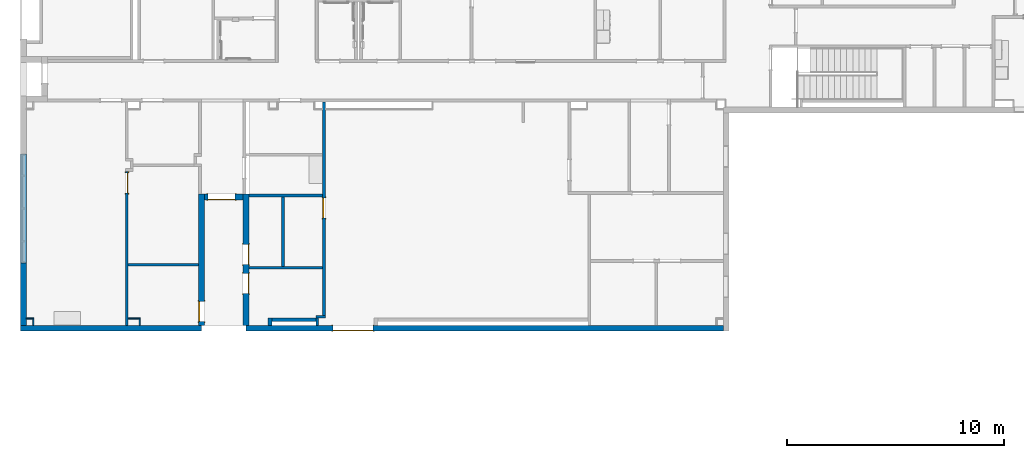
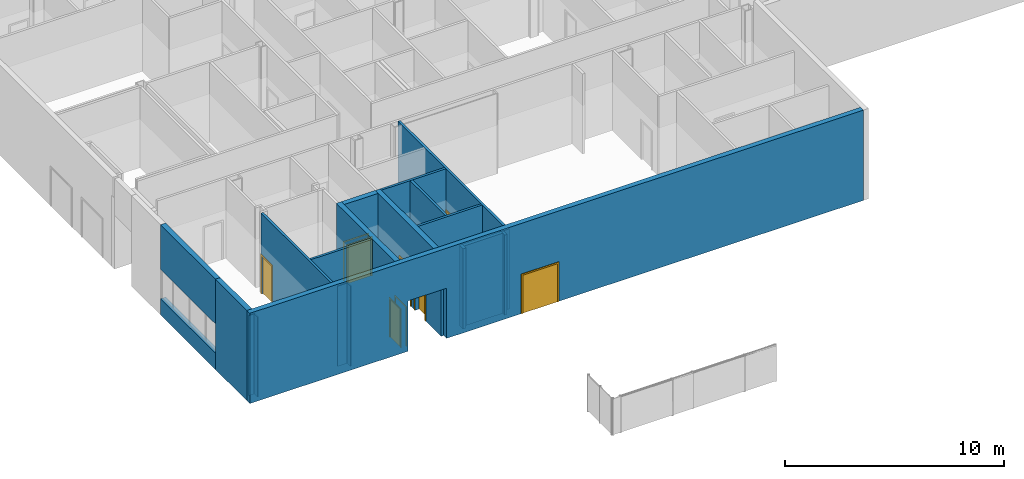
# One storey, part 18 of 87: 21 walls, 7 doors, 8 openings.
"""IFC2X3 building model written with IfcOpenShell, lengths in metres."""

from ifc_helpers import new_model, entity, si_unit, converted_unit, frame, frame_2d, origin, origin_2d_with_axis, place, context, project, spatial, polyline, rectangle, outline, extrude, source, transform, mapped, material, layer, layer_set, layer_usage, type_object, type_shapes, element, fill, save


model = new_model("IFC2X3")

# Units and contexts
model_context = context("Model", 3, precision=1e-09, world=origin())
plan_context = context("Plan", 3, precision=1e-09, world=origin())
ifc_project = project(units=[si_unit("LENGTHUNIT", "METRE"), si_unit("AREAUNIT", "SQUARE_METRE"), si_unit("VOLUMEUNIT", "CUBIC_METRE"), converted_unit("PLANEANGLEUNIT", "DEGREE", entity("IfcRatioMeasure", 0.01745329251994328), si_unit("PLANEANGLEUNIT", "RADIAN"), dimensions=[0, 0, 0, 0, 0, 0, 0]), si_unit("TIMEUNIT", "SECOND")], contexts=[model_context, plan_context])

# Site, building, storey
site_placement = place(None, origin())
site = spatial("IfcSite", under=ifc_project, at=site_placement, Name="Default", CompositionType="ELEMENT")
building_placement = place(site_placement, origin())
building = spatial("IfcBuilding", under=site, at=building_placement, CompositionType="ELEMENT")
storey_placement = place(building_placement, origin())
storey = spatial("IfcBuildingStorey", under=building, at=storey_placement, Name="First Floor", CompositionType="ELEMENT", Elevation=-3.531500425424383e-13)

# Wall, openings, door
ifc_material_1 = material(Name="Insulation - Insulated Panel")
ifc_layer_1 = layer(ifc_material_1, 0.042)
ifc_material_2 = material(Name="Metal - Firring")
ifc_layer_2 = layer(ifc_material_2, 0.038)
ifc_material_3 = material(Name="Wood - Sheathing - plywood")
ifc_layer_3 = layer(ifc_material_3, 0.019)
ifc_material_4 = material(Name="Metal - Stud Layer")
ifc_layer_4 = layer(ifc_material_4, 0.152)
ifc_material_5 = material(Name="Plasterboard")
ifc_layer_5 = layer(ifc_material_5, 0.016)
ifc_layer_set_1 = layer_set([ifc_layer_1, ifc_layer_2, ifc_layer_3, ifc_layer_4, ifc_layer_5], Name="Basic Wall:Exterior - Insul Panel on Mtl. Stud")
ifc_layer_usage_1 = layer_usage(ifc_layer_set_1, "AXIS2", "NEGATIVE", 0.1335)
wall_1_placement = place(storey_placement, frame((-19.9470000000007, -0.246500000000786, 0.0), z_axis=(0.0, 0.0, 1.0), x_axis=(-1.0, 0.0, 0.0)))
wall_1 = element("IfcWallStandardCase", 1, at=wall_1_placement, inside=storey, material=ifc_layer_usage_1, Name="Basic Wall:Exterior - Insul Panel on Mtl. Stud", ObjectType="Basic Wall:Exterior - Insul Panel on Mtl. Stud", context=model_context, shape_type="SweptSolid", body=[
    extrude(rectangle(XDim=32.333, YDim=0.267, at=frame_2d((16.1665, 0.0), x_axis=(-1.0, 0.0))), origin(), (0.0, 0.0, 1.0), 5.02700000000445),
])
opening_1_placement = place(wall_1_placement, frame((22.98149999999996, 0.1335, 1.400000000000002)))
element("IfcOpeningElement", 2, at=opening_1_placement, cuts=wall_1, Name="Basic Wall:Exterior - Insul Panel on Mtl. Stud:2", ObjectType="Opening", context=model_context, shape_type="SweptSolid", body=[
    extrude(rectangle(XDim=2.8, YDim=2.043999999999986, at=frame_2d((0.0, 0.0), x_axis=(0.0, 1.0))), frame((0.0, 0.0, 0.0), z_axis=(0.0, -1.0, 0.0), x_axis=(1.0, 0.0, 0.0)), (0.0, 0.0, 1.0), 0.267),
])
opening_2_placement = place(wall_1_placement, frame((16.12339999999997, -0.1335000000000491, 0.0)))
opening_2 = element("IfcOpeningElement", 3, at=opening_2_placement, cuts=wall_1, Name="M_Double-Flush:1830 x 2134mm Exterior:1830 x 2134mm Exterior:1", ObjectType="Opening", context=model_context, shape_type="SweptSolid", body=[
    extrude(rectangle(XDim=2.133999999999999, YDim=1.829999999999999, at=frame_2d((1.067, 0.9149999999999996), x_axis=(1.0, 0.0))), frame((0.0, 0.0, 0.0), z_axis=(0.0, 1.0, 0.0), x_axis=(0.0, 0.0, 1.0)), (0.0, 0.0, 1.0), 0.267),
])
door_style_1 = type_object("IfcDoorStyle", Name="1830 x 2134mm Exterior", ConstructionType="NOTDEFINED", OperationType="DOUBLE_DOOR_SINGLE_SWING", ParameterTakesPrecedence=False, Sizeable=False)
shared_shape_1 = source(origin(), model_context, "Body", "SweptSolid", [
    extrude(rectangle(XDim=0.051, YDim=0.9150000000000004, at=origin_2d_with_axis()), frame((1.3725, 0.2414999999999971, 0.0), z_axis=(0.0, 0.0, 1.0), x_axis=(0.0, -1.0, 0.0)), (0.0, 0.0, 1.0), 2.133999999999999),
    extrude(rectangle(XDim=0.05099999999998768, YDim=0.9149999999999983, at=origin_2d_with_axis()), frame((0.457500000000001, 0.2415000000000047, 0.0), z_axis=(0.0, 0.0, 1.0), x_axis=(0.0, -1.0, 0.0)), (0.0, 0.0, 1.0), 2.134),
    extrude(outline(polyline([(-1.048, 0.9149999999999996), (1.086, 0.9149999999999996), (1.086, 0.9909999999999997), (-1.124, 0.9909999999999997), (-1.124, -0.9909999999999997), (1.086, -0.9909999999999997), (1.086, -0.9149999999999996), (-1.048, -0.9149999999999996), (-1.048, 0.9149999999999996)])), frame((0.9149999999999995, -0.02499999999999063, 1.086), z_axis=(0.0, 1.0, 0.0), x_axis=(0.0, 0.0, -1.0)), (0.0, 0.0, 1.0), 0.02499999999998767),
    extrude(outline(polyline([(-1.048, 0.9149999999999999), (1.086, 0.9149999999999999), (1.086, 0.991), (-1.124, 0.991), (-1.124, -0.991), (1.086, -0.991), (1.086, -0.9149999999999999), (-1.048, -0.9149999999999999), (-1.048, 0.9149999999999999)])), frame((0.9150000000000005, 0.266999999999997, 1.086), z_axis=(0.0, 1.0, 0.0), x_axis=(0.0, 0.0, -1.0)), (0.0, 0.0, 1.0), 0.02500000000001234),
])
type_shapes(door_style_1, [shared_shape_1])
door_1_placement = place(opening_2_placement, origin())
door_1 = element("IfcDoor", 4, at=door_1_placement, inside=storey, type_object=door_style_1, Name="M_Double-Flush:1830 x 2134mm Exterior:1830 x 2134mm Exterior", ObjectType="1830 x 2134mm Exterior", OverallHeight=2.133999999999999, OverallWidth=1.83, context=model_context, shape_type="MappedRepresentation", body=[
    mapped(shared_shape_1, transform((0.0, 0.0, 0.0), scale=1.0)),
])
fill(opening_2, door_1)

# Wall
ifc_layer_usage_2 = layer_usage(ifc_layer_set_1, "AXIS2", "NEGATIVE", 0.1335)
wall_2_placement = place(storey_placement, frame((-52.1465000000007, -0.1130000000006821, 0.0), z_axis=(0.0, 0.0, 1.0), x_axis=(0.0, 1.0, 0.0)))
element("IfcWallStandardCase", 5, at=wall_2_placement, inside=storey, material=ifc_layer_usage_2, Name="Basic Wall:Exterior - Insul Panel on Mtl. Stud", ObjectType="Basic Wall:Exterior - Insul Panel on Mtl. Stud", context=model_context, shape_type="SweptSolid", body=[
    extrude(rectangle(XDim=2.872486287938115, YDim=0.2670000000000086, at=frame_2d((1.436243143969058, 0.0), x_axis=(-1.0, 0.0))), origin(), (0.0, 0.0, 1.0), 5.02700000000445),
])

# Wall, opening, door
ifc_layer_6 = layer(ifc_material_5, 0.016)
ifc_layer_7 = layer(ifc_material_4, 0.092)
ifc_layer_8 = layer(ifc_material_5, 0.016)
ifc_layer_set_2 = layer_set([ifc_layer_6, ifc_layer_7, ifc_layer_8], Name="Basic Wall:Interior - Partition (92mm Stud)")
ifc_layer_usage_3 = layer_usage(ifc_layer_set_2, "AXIS2", "NEGATIVE", 0.062)
wall_3_placement = place(storey_placement, frame((-47.38800000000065, -0.1130000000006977, 0.0), z_axis=(0.0, 0.0, 1.0), x_axis=(0.0, 1.0, 0.0)))
wall_3 = element("IfcWallStandardCase", 6, at=wall_3_placement, inside=storey, material=ifc_layer_usage_3, Name="Basic Wall:Interior - Partition (92mm Stud)", ObjectType="Basic Wall:Interior - Partition (92mm Stud)", context=model_context, shape_type="SweptSolid", body=[
    extrude(rectangle(XDim=7.078999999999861, YDim=0.1240000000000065, at=frame_2d((3.539499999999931, 0.0), x_axis=(-1.0, 0.0))), origin(), (0.0, 0.0, 1.0), 4.46800000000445),
])
opening_3_placement = place(wall_3_placement, frame((6.998999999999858, 0.06200000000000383, 0.0)))
opening_3 = element("IfcOpeningElement", 7, at=opening_3_placement, cuts=wall_3, Name="M_Single-Flush:0915 x 2134mm:0915 x 2134mm:1", ObjectType="Opening", context=model_context, shape_type="SweptSolid", body=[
    extrude(rectangle(XDim=0.9149999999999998, YDim=2.134, at=frame_2d((1.067, 0.4574999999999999), x_axis=(0.0, -1.0))), frame((0.0, 0.0, 0.0), z_axis=(0.0, -1.0, 0.0), x_axis=(0.0, 0.0, 1.0)), (0.0, 0.0, 1.0), 0.124),
])
door_style_2 = type_object("IfcDoorStyle", Name="0915 x 2134mm", ConstructionType="NOTDEFINED", OperationType="SINGLE_SWING_LEFT", ParameterTakesPrecedence=False, Sizeable=False)
shared_shape_2 = source(origin(), model_context, "Body", "SweptSolid", [
    extrude(outline(polyline([(-0.5335, -1.123999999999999), (0.5334999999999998, -1.123999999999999), (0.5334999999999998, 1.086), (0.4574999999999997, 1.086), (0.4574999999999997, -1.048000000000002), (-0.4574999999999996, -1.048000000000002), (-0.4574999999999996, 1.086), (-0.5335, 1.086), (-0.5335, -1.123999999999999)])), frame((0.4575000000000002, 0.1489999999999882, 1.086), z_axis=(0.0, -1.0, 0.0), x_axis=(-1.0, 0.0, 0.0)), (0.0, 0.0, 1.0), 0.02499999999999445),
    extrude(outline(polyline([(-1.123999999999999, -0.5334999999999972), (1.085999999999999, -0.5334999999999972), (1.085999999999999, -0.4575000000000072), (-1.048, -0.4575000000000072), (-1.048, 0.4575000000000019), (1.085999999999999, 0.4575000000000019), (1.085999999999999, 0.5335000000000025), (-1.123999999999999, 0.5335000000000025), (-1.123999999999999, -0.5334999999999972)])), frame((0.4574999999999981, 0.0, 1.085999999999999), z_axis=(0.0, -1.0, 0.0), x_axis=(0.0, 0.0, -1.0)), (0.0, 0.0, 1.0), 0.02500000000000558),
    extrude(rectangle(XDim=0.9149999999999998, YDim=0.051, at=origin_2d_with_axis()), frame((0.4575000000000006, 0.09849999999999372, 0.0)), (0.0, 0.0, 1.0), 2.133999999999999),
])
type_shapes(door_style_2, [shared_shape_2])
door_2_placement = place(opening_3_placement, frame((0.0, 0.0, 0.0), z_axis=(0.0, 0.0, 1.0), x_axis=(-1.0, 0.0, 0.0)))
door_2 = element("IfcDoor", 8, at=door_2_placement, inside=storey, type_object=door_style_2, Name="M_Single-Flush:0915 x 2134mm:0915 x 2134mm", ObjectType="0915 x 2134mm", OverallHeight=2.134, OverallWidth=0.9149999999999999, context=model_context, shape_type="MappedRepresentation", body=[
    mapped(shared_shape_2, transform((0.0, 0.0, 0.0), scale=1.0)),
])
fill(opening_3, door_2)

ifc_layer_usage_4 = layer_usage(ifc_layer_set_1, "AXIS2", "NEGATIVE", 0.1335)
wall_4_placement = place(storey_placement, frame((-43.95050000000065, 5.919999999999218, 0.0), z_axis=(0.0, 0.0, 1.0), x_axis=(0.0, -1.0, 0.0)))
wall_4 = element("IfcWallStandardCase", 9, at=wall_4_placement, inside=storey, material=ifc_layer_usage_4, Name="Basic Wall:Exterior - Insul Panel on Mtl. Stud", ObjectType="Basic Wall:Exterior - Insul Panel on Mtl. Stud", context=model_context, shape_type="SweptSolid", body=[
    extrude(rectangle(XDim=6.032999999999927, YDim=0.2670000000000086, at=frame_2d((3.016499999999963, 0.0), x_axis=(-1.0, 0.0))), origin(), (0.0, 0.0, 1.0), 4.46800000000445),
])
opening_4_placement = place(wall_4_placement, frame((5.85299999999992, 0.1334999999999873, 0.0)))
opening_4 = element("IfcOpeningElement", 10, at=opening_4_placement, cuts=wall_4, Name="M_Single-Flush:0915 x 2134mm Exterior:0915 x 2134mm Exterior:1", ObjectType="Opening", context=model_context, shape_type="SweptSolid", body=[
    extrude(rectangle(XDim=0.9149999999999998, YDim=2.134, at=frame_2d((1.067, 0.4574999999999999), x_axis=(0.0, -1.0))), frame((0.0, 0.0, 0.0), z_axis=(0.0, -1.0, 0.0), x_axis=(0.0, 0.0, 1.0)), (0.0, 0.0, 1.0), 0.267),
])
door_style_3 = type_object("IfcDoorStyle", Name="0915 x 2134mm Exterior", ConstructionType="NOTDEFINED", OperationType="SINGLE_SWING_LEFT", ParameterTakesPrecedence=False, Sizeable=False)
shared_shape_3 = source(origin(), model_context, "Body", "SweptSolid", [
    extrude(outline(polyline([(-0.5335, -1.123999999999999), (0.5334999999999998, -1.123999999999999), (0.5334999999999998, 1.086), (0.4574999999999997, 1.086), (0.4574999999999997, -1.048000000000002), (-0.4574999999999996, -1.048000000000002), (-0.4574999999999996, 1.086), (-0.5335, 1.086), (-0.5335, -1.123999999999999)])), frame((0.4575000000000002, 0.2919999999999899, 1.086), z_axis=(0.0, -1.0, 0.0), x_axis=(-1.0, 0.0, 0.0)), (0.0, 0.0, 1.0), 0.02499999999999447),
    extrude(outline(polyline([(-1.123999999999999, -0.5334999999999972), (1.085999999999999, -0.5334999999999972), (1.085999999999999, -0.4575000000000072), (-1.048, -0.4575000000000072), (-1.048, 0.4575000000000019), (1.085999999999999, 0.4575000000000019), (1.085999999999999, 0.5335000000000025), (-1.123999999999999, 0.5335000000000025), (-1.123999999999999, -0.5334999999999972)])), frame((0.4574999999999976, 0.0, 1.085999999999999), z_axis=(0.0, -1.0, 0.0), x_axis=(0.0, 0.0, -1.0)), (0.0, 0.0, 1.0), 0.0250000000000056),
    extrude(rectangle(XDim=0.9149999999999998, YDim=0.051, at=origin_2d_with_axis()), frame((0.4575000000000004, 0.2414999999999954, 0.0)), (0.0, 0.0, 1.0), 2.133999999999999),
])
type_shapes(door_style_3, [shared_shape_3])
door_3_placement = place(opening_4_placement, frame((0.0, 0.0, 0.0), z_axis=(0.0, 0.0, 1.0), x_axis=(-1.0, 0.0, 0.0)))
door_3 = element("IfcDoor", 11, at=door_3_placement, inside=storey, type_object=door_style_3, Name="M_Single-Flush:0915 x 2134mm Exterior:0915 x 2134mm Exterior", ObjectType="0915 x 2134mm Exterior", OverallHeight=2.134, OverallWidth=0.9150000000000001, context=model_context, shape_type="MappedRepresentation", body=[
    mapped(shared_shape_3, transform((0.0, 0.0, 0.0), scale=1.0)),
])
fill(opening_4, door_3)

# Wall
ifc_layer_usage_5 = layer_usage(ifc_layer_set_2, "AXIS2", "NEGATIVE", 0.062)
wall_5_placement = place(storey_placement, frame((-47.32600000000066, 2.677999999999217, 0.0)))
element("IfcWallStandardCase", 12, at=wall_5_placement, inside=storey, material=ifc_layer_usage_5, Name="Basic Wall:Interior - Partition (92mm Stud)", ObjectType="Basic Wall:Interior - Partition (92mm Stud)", context=model_context, shape_type="SweptSolid", body=[
    extrude(rectangle(XDim=3.242000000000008, YDim=0.124, at=frame_2d((1.621000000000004, 0.0), x_axis=(-1.0, 0.0))), origin(), (0.0, 0.0, 1.0), 4.46800000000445),
])

# Wall, opening, door
ifc_layer_usage_6 = layer_usage(ifc_layer_set_1, "AXIS2", "NEGATIVE", 0.1335)
wall_6_placement = place(storey_placement, frame((-42.04000000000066, 5.786499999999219, 0.0), z_axis=(0.0, 0.0, 1.0), x_axis=(-1.0, 0.0, 0.0)))
wall_6 = element("IfcWallStandardCase", 13, at=wall_6_placement, inside=storey, material=ifc_layer_usage_6, Name="Basic Wall:Exterior - Insul Panel on Mtl. Stud", ObjectType="Basic Wall:Exterior - Insul Panel on Mtl. Stud", context=model_context, shape_type="SweptSolid", body=[
    extrude(rectangle(XDim=1.776999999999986, YDim=0.267, at=frame_2d((0.888499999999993, 0.0), x_axis=(-1.0, 0.0))), origin(), (0.0, 0.0, 1.0), 4.46800000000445),
])
opening_5_placement = place(wall_6_placement, frame((0.3853784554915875, -0.1335000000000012, 0.0)))
opening_5 = element("IfcOpeningElement", 14, at=opening_5_placement, cuts=wall_6, Name="M_Single-Flush:1.220 x 2134mm Exterior:1.220 x 2134mm Exterior:1", ObjectType="Opening", context=model_context, shape_type="SweptSolid", body=[
    extrude(rectangle(XDim=1.22, YDim=2.134, at=frame_2d((1.067, 0.6100000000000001), x_axis=(0.0, 1.0))), frame((0.0, 0.0, 0.0), z_axis=(0.0, 1.0, 0.0), x_axis=(0.0, 0.0, 1.0)), (0.0, 0.0, 1.0), 0.267),
])
door_style_4 = type_object("IfcDoorStyle", Name="1.220 x 2134mm Exterior", ConstructionType="NOTDEFINED", OperationType="SINGLE_SWING_RIGHT", ParameterTakesPrecedence=False, Sizeable=False)
shared_shape_4 = source(origin(), model_context, "Body", "SweptSolid", [
    extrude(outline(polyline([(-0.6859999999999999, -1.123999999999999), (0.6859999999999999, -1.123999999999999), (0.6859999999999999, 1.086), (0.61, 1.086), (0.61, -1.048000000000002), (-0.6099999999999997, -1.048000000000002), (-0.6099999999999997, 1.086), (-0.6859999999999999, 1.086), (-0.6859999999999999, -1.123999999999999)])), frame((0.6100000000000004, 0.2669999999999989, 1.086), z_axis=(0.0, 1.0, 0.0), x_axis=(1.0, 0.0, 0.0)), (0.0, 0.0, 1.0), 0.02499999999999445),
    extrude(outline(polyline([(-1.124, -0.6859999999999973), (1.086, -0.6859999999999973), (1.086, -0.6100000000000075), (-1.048, -0.6100000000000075), (-1.048, 0.6100000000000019), (1.086, 0.6100000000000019), (1.086, 0.6860000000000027), (-1.124, 0.6860000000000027), (-1.124, -0.6859999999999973)])), frame((0.6100000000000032, -0.0250000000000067, 1.086), z_axis=(0.0, 1.0, 0.0), x_axis=(0.0, 0.0, -1.0)), (0.0, 0.0, 1.0), 0.02500000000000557),
    extrude(rectangle(XDim=0.051, YDim=1.22, at=origin_2d_with_axis()), frame((0.6100000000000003, 0.2414999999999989, 0.0), z_axis=(0.0, 0.0, 1.0), x_axis=(0.0, 1.0, 0.0)), (0.0, 0.0, 1.0), 2.133999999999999),
])
type_shapes(door_style_4, [shared_shape_4])
door_4_placement = place(opening_5_placement, origin())
door_4 = element("IfcDoor", 15, at=door_4_placement, inside=storey, type_object=door_style_4, Name="M_Single-Flush:1.220 x 2134mm Exterior:1.220 x 2134mm Exterior", ObjectType="1.220 x 2134mm Exterior", OverallHeight=2.134, OverallWidth=1.22, context=model_context, shape_type="MappedRepresentation", body=[
    mapped(shared_shape_4, transform((0.0, 0.0, 0.0), scale=1.0)),
])
fill(opening_5, door_4)

# Wall, openings, doors
ifc_layer_usage_7 = layer_usage(ifc_layer_set_1, "AXIS2", "NEGATIVE", 0.1335)
wall_7_placement = place(storey_placement, frame((-41.90650000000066, -0.113000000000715, 0.0), z_axis=(0.0, 0.0, 1.0), x_axis=(0.0, 1.0, 0.0)))
wall_7 = element("IfcWallStandardCase", 16, at=wall_7_placement, inside=storey, material=ifc_layer_usage_7, Name="Basic Wall:Exterior - Insul Panel on Mtl. Stud", ObjectType="Basic Wall:Exterior - Insul Panel on Mtl. Stud", context=model_context, shape_type="SweptSolid", body=[
    extrude(rectangle(XDim=6.032999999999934, YDim=0.2670000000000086, at=frame_2d((3.016499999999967, 0.0), x_axis=(-1.0, 0.0))), origin(), (0.0, 0.0, 1.0), 4.46800000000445),
])
opening_6_placement = place(wall_7_placement, frame((2.382999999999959, 0.1335000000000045, 0.0)))
opening_6 = element("IfcOpeningElement", 17, at=opening_6_placement, cuts=wall_7, Name="M_Single-Flush:0915 x 2134mm Exterior:0915 x 2134mm Exterior:1", ObjectType="Opening", context=model_context, shape_type="SweptSolid", body=[
    extrude(rectangle(XDim=0.915, YDim=2.134, at=frame_2d((1.067, 0.4575000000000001), x_axis=(0.0, -1.0))), frame((0.0, 0.0, 0.0), z_axis=(0.0, -1.0, 0.0), x_axis=(0.0, 0.0, 1.0)), (0.0, 0.0, 1.0), 0.267),
])
opening_7_placement = place(wall_7_placement, frame((3.721999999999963, 0.1335000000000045, 0.0)))
opening_7 = element("IfcOpeningElement", 18, at=opening_7_placement, cuts=wall_7, Name="M_Single-Flush:0915 x 2134mm Exterior:0915 x 2134mm Exterior:1", ObjectType="Opening", context=model_context, shape_type="SweptSolid", body=[
    extrude(rectangle(XDim=0.9149999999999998, YDim=2.134, at=frame_2d((1.067, 0.4575), x_axis=(0.0, 1.0))), frame((0.0, 0.0, 0.0), z_axis=(0.0, -1.0, 0.0), x_axis=(0.0, 0.0, 1.0)), (0.0, 0.0, 1.0), 0.267),
])
door_style_5 = type_object("IfcDoorStyle", Name="0915 x 2134mm Exterior", ConstructionType="NOTDEFINED", OperationType="SINGLE_SWING_RIGHT", ParameterTakesPrecedence=False, Sizeable=False)
shared_shape_5 = source(origin(), model_context, "Body", "SweptSolid", [
    extrude(outline(polyline([(-0.5335, -1.123999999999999), (0.5334999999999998, -1.123999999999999), (0.5334999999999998, 1.086), (0.4574999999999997, 1.086), (0.4574999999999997, -1.048000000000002), (-0.4574999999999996, -1.048000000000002), (-0.4574999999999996, 1.086), (-0.5335, 1.086), (-0.5335, -1.123999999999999)])), frame((0.4575000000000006, 0.2669999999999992, 1.086), z_axis=(0.0, 1.0, 0.0), x_axis=(1.0, 0.0, 0.0)), (0.0, 0.0, 1.0), 0.02499999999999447),
    extrude(outline(polyline([(-1.123999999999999, -0.5334999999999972), (1.085999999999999, -0.5334999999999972), (1.085999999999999, -0.4575000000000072), (-1.048, -0.4575000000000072), (-1.048, 0.4575000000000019), (1.085999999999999, 0.4575000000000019), (1.085999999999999, 0.5335000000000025), (-1.123999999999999, 0.5335000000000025), (-1.123999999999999, -0.5334999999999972)])), frame((0.4575000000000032, -0.02500000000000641, 1.085999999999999), z_axis=(0.0, 1.0, 0.0), x_axis=(0.0, 0.0, -1.0)), (0.0, 0.0, 1.0), 0.0250000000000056),
    extrude(rectangle(XDim=0.051, YDim=0.9149999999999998, at=origin_2d_with_axis()), frame((0.4575000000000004, 0.2414999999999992, 0.0), z_axis=(0.0, 0.0, 1.0), x_axis=(0.0, 1.0, 0.0)), (0.0, 0.0, 1.0), 2.133999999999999),
])
type_shapes(door_style_5, [shared_shape_5])
door_5_placement = place(opening_7_placement, frame((0.0, 0.0, 0.0), z_axis=(0.0, 0.0, 1.0), x_axis=(-1.0, 0.0, 0.0)))
door_5 = element("IfcDoor", 19, at=door_5_placement, inside=storey, type_object=door_style_5, Name="M_Single-Flush:0915 x 2134mm Exterior:0915 x 2134mm Exterior", ObjectType="0915 x 2134mm Exterior", OverallHeight=2.134, OverallWidth=0.9149999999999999, context=model_context, shape_type="MappedRepresentation", body=[
    mapped(shared_shape_5, transform((0.0, 0.0, 0.0), scale=1.0)),
])
fill(opening_7, door_5)
door_6_placement = place(opening_6_placement, frame((0.0, 0.0, 0.0), z_axis=(0.0, 0.0, 1.0), x_axis=(-1.0, 0.0, 0.0)))
door_6 = element("IfcDoor", 20, at=door_6_placement, inside=storey, type_object=door_style_3, Name="M_Single-Flush:0915 x 2134mm Exterior:0915 x 2134mm Exterior", ObjectType="0915 x 2134mm Exterior", OverallHeight=2.134, OverallWidth=0.9150000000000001, context=model_context, shape_type="MappedRepresentation", body=[
    mapped(shared_shape_3, transform((0.0, 0.0, 0.0), scale=1.0)),
])
fill(opening_6, door_6)

# Walls
ifc_layer_usage_8 = layer_usage(ifc_layer_set_2, "AXIS2", "NEGATIVE", 0.062)
wall_8_placement = place(storey_placement, frame((-38.25539926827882, 0.2767282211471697, 0.0), z_axis=(0.0, 0.0, 1.0), x_axis=(-1.0, 0.0, 0.0)))
element("IfcWallStandardCase", 21, at=wall_8_placement, inside=storey, material=ifc_layer_usage_8, Name="Basic Wall:Interior - Partition (92mm Stud)", ObjectType="Basic Wall:Interior - Partition (92mm Stud)", context=model_context, shape_type="SweptSolid", body=[
    extrude(rectangle(XDim=0.4390007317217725, YDim=0.124, at=frame_2d((0.2195003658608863, 0.0), x_axis=(-1.0, 0.0))), origin(), (0.0, 0.0, 1.0), 4.46800000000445),
])
ifc_layer_usage_9 = layer_usage(ifc_layer_set_2, "AXIS2", "NEGATIVE", 0.062)
wall_9_placement = place(storey_placement, frame((-38.63240000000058, 0.2147282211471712, 0.0), z_axis=(0.0, 0.0, 1.0), x_axis=(0.0, -1.0, 0.0)))
element("IfcWallStandardCase", 22, at=wall_9_placement, inside=storey, material=ifc_layer_usage_9, Name="Basic Wall:Interior - Partition (92mm Stud)", ObjectType="Basic Wall:Interior - Partition (92mm Stud)", context=model_context, shape_type="SweptSolid", body=[
    extrude(rectangle(XDim=0.327728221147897, YDim=0.1239999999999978, at=frame_2d((0.1638641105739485, 0.0), x_axis=(-1.0, 0.0))), origin(), (0.0, 0.0, 1.0), 4.46800000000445),
])
ifc_layer_9 = layer(ifc_material_4, 0.152)
ifc_layer_10 = layer(ifc_material_5, 0.016)
ifc_layer_set_3 = layer_set([ifc_layer_9, ifc_layer_10], Name="Basic Wall:Interior - Furring (152 mm Stud)")
ifc_layer_usage_10 = layer_usage(ifc_layer_set_3, "AXIS2", "POSITIVE", -0.08399999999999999)
wall_10_placement = place(storey_placement, frame((-40.80600000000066, -0.1130000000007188, 0.0), z_axis=(0.0, 0.0, 1.0), x_axis=(0.0, 1.0, 0.0)))
element("IfcWallStandardCase", 23, at=wall_10_placement, inside=storey, material=ifc_layer_usage_10, Name="Basic Wall:Interior - Furring (152 mm Stud)", ObjectType="Basic Wall:Interior - Furring (152 mm Stud)", context=model_context, shape_type="SweptSolid", body=[
    extrude(rectangle(XDim=0.3429999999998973, YDim=0.1679999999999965, at=frame_2d((0.1714999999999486, 0.0), x_axis=(-1.0, 0.0))), origin(), (0.0, 0.0, 1.0), 4.46800000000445),
])
ifc_layer_usage_11 = layer_usage(ifc_layer_set_3, "AXIS2", "POSITIVE", -0.08399999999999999)
wall_11_placement = place(storey_placement, frame((-40.72200000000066, 0.1459999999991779, 0.0)))
element("IfcWallStandardCase", 24, at=wall_11_placement, inside=storey, material=ifc_layer_usage_11, Name="Basic Wall:Interior - Furring (152 mm Stud)", ObjectType="Basic Wall:Interior - Furring (152 mm Stud)", context=model_context, shape_type="SweptSolid", body=[
    extrude(rectangle(XDim=2.027600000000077, YDim=0.168, at=frame_2d((1.013800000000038, 0.0), x_axis=(-1.0, 0.0))), origin(), (0.0, 0.0, 1.0), 4.46800000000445),
])
ifc_layer_usage_12 = layer_usage(ifc_layer_set_2, "AXIS2", "NEGATIVE", 0.062)
wall_12_placement = place(storey_placement, frame((-38.37939926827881, 2.531999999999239, 0.0), z_axis=(0.0, 0.0, 1.0), x_axis=(-1.0, 0.0, 0.0)))
element("IfcWallStandardCase", 25, at=wall_12_placement, inside=storey, material=ifc_layer_usage_12, Name="Basic Wall:Interior - Partition (92mm Stud)", ObjectType="Basic Wall:Interior - Partition (92mm Stud)", context=model_context, shape_type="SweptSolid", body=[
    extrude(rectangle(XDim=3.393600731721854, YDim=0.124, at=frame_2d((1.696800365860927, 0.0), x_axis=(-1.0, 0.0))), origin(), (0.0, 0.0, 1.0), 4.46800000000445),
])
ifc_layer_usage_13 = layer_usage(ifc_layer_set_2, "AXIS2", "NEGATIVE", 0.062)
wall_13_placement = place(storey_placement, frame((-41.77300000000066, 5.857999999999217, 0.0)))
element("IfcWallStandardCase", 26, at=wall_13_placement, inside=storey, material=ifc_layer_usage_13, Name="Basic Wall:Interior - Partition (92mm Stud)", ObjectType="Basic Wall:Interior - Partition (92mm Stud)", context=model_context, shape_type="SweptSolid", body=[
    extrude(rectangle(XDim=3.39360073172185, YDim=0.124, at=frame_2d((1.696800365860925, 0.0), x_axis=(-1.0, 0.0))), origin(), (0.0, 0.0, 1.0), 4.468000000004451),
])
ifc_layer_usage_14 = layer_usage(ifc_layer_set_2, "AXIS2", "NEGATIVE", 0.062)
wall_14_placement = place(storey_placement, frame((-40.20340000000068, 2.593999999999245, 0.0), z_axis=(0.0, 0.0, 1.0), x_axis=(0.0, 1.0, 0.0)))
element("IfcWallStandardCase", 27, at=wall_14_placement, inside=storey, material=ifc_layer_usage_14, Name="Basic Wall:Interior - Partition (92mm Stud)", ObjectType="Basic Wall:Interior - Partition (92mm Stud)", context=model_context, shape_type="SweptSolid", body=[
    extrude(rectangle(XDim=3.201999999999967, YDim=0.1240000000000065, at=frame_2d((1.600999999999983, 0.0), x_axis=(-1.0, 0.0))), origin(), (0.0, 0.0, 1.0), 4.46800000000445),
])

# Wall, opening, door
ifc_layer_usage_15 = layer_usage(ifc_layer_set_2, "AXIS2", "NEGATIVE", 0.062)
wall_15_placement = place(storey_placement, frame((-38.3173992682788, 10.16299999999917, 0.0), z_axis=(0.0, 0.0, 1.0), x_axis=(0.0, -1.0, 0.0)))
wall_15 = element("IfcWallStandardCase", 28, at=wall_15_placement, inside=storey, material=ifc_layer_usage_15, Name="Basic Wall:Interior - Partition (92mm Stud)", ObjectType="Basic Wall:Interior - Partition (92mm Stud)", context=model_context, shape_type="SweptSolid", body=[
    extrude(rectangle(XDim=9.824271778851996, YDim=0.1239999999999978, at=frame_2d((4.912135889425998, 0.0), x_axis=(-1.0, 0.0))), origin(), (0.0, 0.0, 1.0), 4.468000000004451),
])
opening_8_placement = place(wall_15_placement, frame((5.34199999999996, 0.06199999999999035, 0.0)))
opening_8 = element("IfcOpeningElement", 29, at=opening_8_placement, cuts=wall_15, Name="M_Single-Flush:0915 x 2134mm:0915 x 2134mm:1", ObjectType="Opening", context=model_context, shape_type="SweptSolid", body=[
    extrude(rectangle(XDim=0.9149999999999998, YDim=2.134, at=frame_2d((1.067, 0.4575), x_axis=(0.0, 1.0))), frame((0.0, 0.0, 0.0), z_axis=(0.0, -1.0, 0.0), x_axis=(0.0, 0.0, 1.0)), (0.0, 0.0, 1.0), 0.124),
])
door_style_6 = type_object("IfcDoorStyle", Name="0915 x 2134mm", ConstructionType="NOTDEFINED", OperationType="SINGLE_SWING_RIGHT", ParameterTakesPrecedence=False, Sizeable=False)
shared_shape_6 = source(origin(), model_context, "Body", "SweptSolid", [
    extrude(outline(polyline([(-0.5335, -1.123999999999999), (0.5334999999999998, -1.123999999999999), (0.5334999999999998, 1.086), (0.4574999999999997, 1.086), (0.4574999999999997, -1.048000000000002), (-0.4574999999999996, -1.048000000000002), (-0.4574999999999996, 1.086), (-0.5335, 1.086), (-0.5335, -1.123999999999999)])), frame((0.4575000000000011, 0.1239999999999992, 1.086), z_axis=(0.0, 1.0, 0.0), x_axis=(1.0, 0.0, 0.0)), (0.0, 0.0, 1.0), 0.02499999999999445),
    extrude(outline(polyline([(-1.123999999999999, -0.5334999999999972), (1.085999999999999, -0.5334999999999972), (1.085999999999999, -0.4575000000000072), (-1.048, -0.4575000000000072), (-1.048, 0.4575000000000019), (1.085999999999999, 0.4575000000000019), (1.085999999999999, 0.5335000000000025), (-1.123999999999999, 0.5335000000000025), (-1.123999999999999, -0.5334999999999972)])), frame((0.4575000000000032, -0.02500000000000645, 1.085999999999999), z_axis=(0.0, 1.0, 0.0), x_axis=(0.0, 0.0, -1.0)), (0.0, 0.0, 1.0), 0.02500000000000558),
    extrude(rectangle(XDim=0.051, YDim=0.9149999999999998, at=origin_2d_with_axis()), frame((0.4575000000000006, 0.09849999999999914, 0.0), z_axis=(0.0, 0.0, 1.0), x_axis=(0.0, 1.0, 0.0)), (0.0, 0.0, 1.0), 2.133999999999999),
])
type_shapes(door_style_6, [shared_shape_6])
door_7_placement = place(opening_8_placement, frame((0.0, 0.0, 0.0), z_axis=(0.0, 0.0, 1.0), x_axis=(-1.0, 0.0, 0.0)))
door_7 = element("IfcDoor", 30, at=door_7_placement, inside=storey, type_object=door_style_6, Name="M_Single-Flush:0915 x 2134mm:0915 x 2134mm", ObjectType="0915 x 2134mm", OverallHeight=2.134, OverallWidth=0.9149999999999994, context=model_context, shape_type="MappedRepresentation", body=[
    mapped(shared_shape_6, transform((0.0, 0.0, 0.0), scale=1.0)),
])
fill(opening_8, door_7)

# Walls
ifc_layer_usage_16 = layer_usage(ifc_layer_set_1, "AXIS2", "NEGATIVE", 0.1335)
wall_16_placement = place(storey_placement, frame((-52.14650000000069, 2.759486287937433, 0.0), z_axis=(0.0, 0.0, 1.0), x_axis=(0.0, 1.0, 0.0)))
element("IfcWallStandardCase", 31, at=wall_16_placement, inside=storey, material=ifc_layer_usage_16, Name="Basic Wall:Exterior - Insul Panel on Mtl. Stud", ObjectType="Basic Wall:Exterior - Insul Panel on Mtl. Stud", context=model_context, shape_type="SweptSolid", body=[
    extrude(rectangle(XDim=5.000513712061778, YDim=0.2670000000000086, at=frame_2d((2.500256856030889, 0.0), x_axis=(-1.0, 0.0))), origin(), (0.0, 0.0, 1.0), 0.905),
])
ifc_layer_usage_17 = layer_usage(ifc_layer_set_1, "AXIS2", "NEGATIVE", 0.1335)
wall_17_placement = place(storey_placement, frame((-52.14650000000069, 2.759486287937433, 2.54), z_axis=(0.0, 0.0, 1.0), x_axis=(0.0, 1.0, 0.0)))
element("IfcWallStandardCase", 32, at=wall_17_placement, inside=storey, material=ifc_layer_usage_17, Name="Basic Wall:Exterior - Insul Panel on Mtl. Stud", ObjectType="Basic Wall:Exterior - Insul Panel on Mtl. Stud", context=model_context, shape_type="SweptSolid", body=[
    extrude(rectangle(XDim=5.000513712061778, YDim=0.2670000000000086, at=frame_2d((2.500256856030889, 0.0), x_axis=(-1.0, 0.0))), origin(), (0.0, 0.0, 1.0), 2.48700000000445),
])
ifc_layer_11 = layer(ifc_material_4, 0.038)
ifc_layer_12 = layer(ifc_material_5, 0.016)
ifc_layer_set_4 = layer_set([ifc_layer_11, ifc_layer_12], Name="Basic Wall:Interior - Furring (38 mm Stud)")
ifc_layer_usage_18 = layer_usage(ifc_layer_set_4, "AXIS2", "POSITIVE", -0.027)
wall_18_placement = place(storey_placement, frame((-52.0130000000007, 0.2029999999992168, 0.0)))
element("IfcWallStandardCase", 33, at=wall_18_placement, inside=storey, material=ifc_layer_usage_18, Name="Basic Wall:Interior - Furring (38 mm Stud)", ObjectType="Basic Wall:Interior - Furring (38 mm Stud)", context=model_context, shape_type="SweptSolid", body=[
    extrude(rectangle(XDim=0.3434000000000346, YDim=0.05400000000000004, at=frame_2d((0.1717000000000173, 0.0), x_axis=(-1.0, 0.0))), origin(), (0.0, 0.0, 1.0), 4.46800000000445),
])
ifc_layer_usage_19 = layer_usage(ifc_layer_set_4, "AXIS2", "POSITIVE", -0.027)
wall_19_placement = place(storey_placement, frame((-51.69660000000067, 0.1759999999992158, 0.0), z_axis=(0.0, 0.0, 1.0), x_axis=(0.0, -1.0, 0.0)))
element("IfcWallStandardCase", 34, at=wall_19_placement, inside=storey, material=ifc_layer_usage_19, Name="Basic Wall:Interior - Furring (38 mm Stud)", ObjectType="Basic Wall:Interior - Furring (38 mm Stud)", context=model_context, shape_type="SweptSolid", body=[
    extrude(rectangle(XDim=0.2889999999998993, YDim=0.05400000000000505, at=frame_2d((0.1444999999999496, 0.0), x_axis=(-1.0, 0.0))), origin(), (0.0, 0.0, 1.0), 4.46800000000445),
])
ifc_layer_usage_20 = layer_usage(ifc_layer_set_4, "AXIS2", "POSITIVE", -0.027)
wall_20_placement = place(storey_placement, frame((-47.32600000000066, 0.2029999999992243, 0.0)))
element("IfcWallStandardCase", 35, at=wall_20_placement, inside=storey, material=ifc_layer_usage_20, Name="Basic Wall:Interior - Furring (38 mm Stud)", ObjectType="Basic Wall:Interior - Furring (38 mm Stud)", context=model_context, shape_type="SweptSolid", body=[
    extrude(rectangle(XDim=0.5564000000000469, YDim=0.05400000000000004, at=frame_2d((0.2782000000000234, 0.0), x_axis=(-1.0, 0.0))), origin(), (0.0, 0.0, 1.0), 4.46800000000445),
])
ifc_layer_usage_21 = layer_usage(ifc_layer_set_4, "AXIS2", "POSITIVE", -0.027)
wall_21_placement = place(storey_placement, frame((-46.79660000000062, 0.1759999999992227, 0.0), z_axis=(0.0, 0.0, 1.0), x_axis=(0.0, -1.0, 0.0)))
element("IfcWallStandardCase", 36, at=wall_21_placement, inside=storey, material=ifc_layer_usage_21, Name="Basic Wall:Interior - Furring (38 mm Stud)", ObjectType="Basic Wall:Interior - Furring (38 mm Stud)", context=model_context, shape_type="SweptSolid", body=[
    extrude(rectangle(XDim=0.288999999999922, YDim=0.05400000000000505, at=frame_2d((0.144499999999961, 0.0), x_axis=(-1.0, 0.0))), origin(), (0.0, 0.0, 1.0), 4.46800000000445),
])

save(model, "model.ifc")
